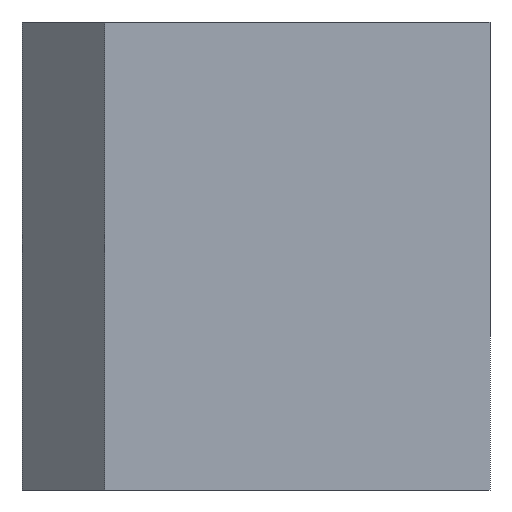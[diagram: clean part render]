
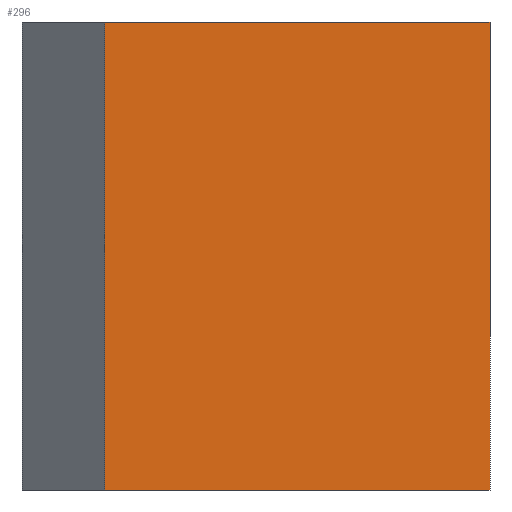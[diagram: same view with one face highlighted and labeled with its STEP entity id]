
A CAD part, left-side view. The second image highlights one B-rep face of the part: STEP entity #296.
In plain terms, the highlighted planar face has unit normal (-1, 0, 0).
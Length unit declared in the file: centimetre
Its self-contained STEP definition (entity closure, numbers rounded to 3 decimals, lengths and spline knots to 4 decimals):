
#4 = VERTEX_POINT ( 'NONE', #312 ) ;
#29 = EDGE_CURVE ( 'NONE', #238, #298, #218, .T. ) ;
#33 = PLANE ( 'NONE',  #264 ) ;
#37 = CARTESIAN_POINT ( 'NONE',  ( 0., 1000., 1000. ) ) ;
#52 = DIRECTION ( 'NONE',  ( 0., -1., 0. ) ) ;
#53 = EDGE_LOOP ( 'NONE', ( #310, #155, #331, #333 ) ) ;
#54 = EDGE_CURVE ( 'NONE', #81, #298, #406, .T. ) ;
#63 = DIRECTION ( 'NONE',  ( 0., -1., 0. ) ) ;
#78 = LINE ( 'NONE', #143, #223 ) ;
#81 = VERTEX_POINT ( 'NONE', #374 ) ;
#83 = VECTOR ( 'NONE', #248, 100. ) ;
#103 = LINE ( 'NONE', #207, #315 ) ;
#130 = VECTOR ( 'NONE', #63, 100. ) ;
#143 = CARTESIAN_POINT ( 'NONE',  ( 0., 1000., 1000. ) ) ;
#155 = ORIENTED_EDGE ( 'NONE', *, *, #388, .T. ) ;
#185 = CARTESIAN_POINT ( 'NONE',  ( 0., 0., 1000. ) ) ;
#207 = CARTESIAN_POINT ( 'NONE',  ( 0., 823.4021, 1000. ) ) ;
#218 = LINE ( 'NONE', #401, #130 ) ;
#223 = VECTOR ( 'NONE', #52, 100. ) ;
#238 = VERTEX_POINT ( 'NONE', #379 ) ;
#248 = DIRECTION ( 'NONE',  ( 0., 0., -1. ) ) ;
#264 = AXIS2_PLACEMENT_3D ( 'NONE', #37, #380, #394 ) ;
#266 = DIRECTION ( 'NONE',  ( 0., 0., -1. ) ) ;
#296 = ADVANCED_FACE ( 'NONE', ( #316 ), #33, .F. ) ;
#298 = VERTEX_POINT ( 'NONE', #383 ) ;
#310 = ORIENTED_EDGE ( 'NONE', *, *, #362, .F. ) ;
#312 = CARTESIAN_POINT ( 'NONE',  ( 0., 823.4021, 1000. ) ) ;
#315 = VECTOR ( 'NONE', #266, 100. ) ;
#316 = FACE_OUTER_BOUND ( 'NONE', #53, .T. ) ;
#331 = ORIENTED_EDGE ( 'NONE', *, *, #29, .T. ) ;
#333 = ORIENTED_EDGE ( 'NONE', *, *, #54, .F. ) ;
#362 = EDGE_CURVE ( 'NONE', #4, #81, #78, .T. ) ;
#374 = CARTESIAN_POINT ( 'NONE',  ( 0., 0., 1000. ) ) ;
#379 = CARTESIAN_POINT ( 'NONE',  ( 0., 823.4021, 0. ) ) ;
#380 = DIRECTION ( 'NONE',  ( 1., 0., 0. ) ) ;
#383 = CARTESIAN_POINT ( 'NONE',  ( 0., 0., 0. ) ) ;
#388 = EDGE_CURVE ( 'NONE', #4, #238, #103, .T. ) ;
#394 = DIRECTION ( 'NONE',  ( 0., 0., -1. ) ) ;
#401 = CARTESIAN_POINT ( 'NONE',  ( 0., 1000., 0. ) ) ;
#406 = LINE ( 'NONE', #185, #83 ) ;
